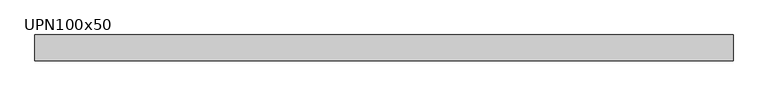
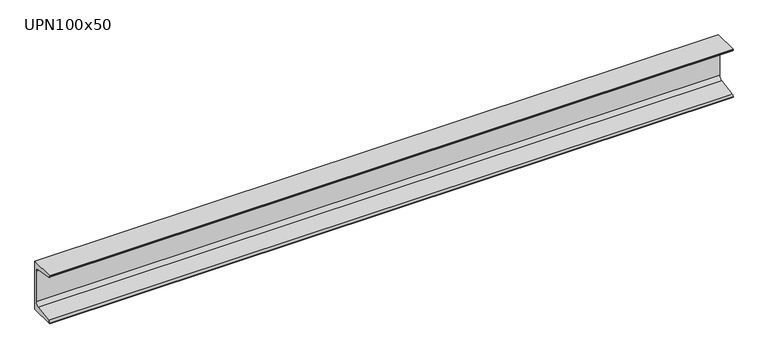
"""IFC4 building model written with IfcOpenShell, lengths in millimetres: beam geometry, M_MC Shapes : UPN100x50."""

from ifc_helpers import new_model, si_unit, point, frame, frame_2d, origin, place, context, project, spatial, polyline, circle_curve, trimmed, segment, composite_curve, outline, extrude, source, transform, mapped, element, save


def upn100x50_5b4b934f(model_context):
    return source(origin(), model_context, "Body", "SweptSolid", [
        extrude(outline(composite_curve([segment(polyline([(10.9, 50.0), (10.9, -50.0), (-39.1, -50.0), (-39.1, -49.0253247)]), True, "CONTINUOUS"), segment(trimmed(circle_curve(frame_2d((-35.15, -49.0253247)), 3.95), [point((-39.1, -49.0253247))], [point((-35.7993773, -45.1290689))], False, "CARTESIAN"), True, "CONTINUOUS"), segment(polyline([(-35.7993773, -45.1290689), (-0.2512455, -39.2043685)]), True, "CONTINUOUS"), segment(trimmed(circle_curve(frame_2d((-1.55, -31.4118569)), 7.9), [point((-0.2512455, -39.2043685))], [point((6.35, -31.4118569))], True, "CARTESIAN"), True, "CONTINUOUS"), segment(polyline([(6.35, -31.4118569), (6.35, 31.4118569)]), True, "CONTINUOUS"), segment(trimmed(circle_curve(frame_2d((-1.55, 31.4118569)), 7.9), [point((6.35, 31.4118569))], [point((-0.2512455, 39.2043685))], True, "CARTESIAN"), True, "CONTINUOUS"), segment(polyline([(-0.2512455, 39.2043685), (-35.7993773, 45.1290689)]), True, "CONTINUOUS"), segment(trimmed(circle_curve(frame_2d((-35.15, 49.0253247)), 3.95), [point((-35.7993773, 45.1290689))], [point((-39.1, 49.0253247))], False, "CARTESIAN"), True, "CONTINUOUS"), segment(polyline([(-39.1, 49.0253247), (-39.1, 50.0), (10.9, 50.0)]), True, "CONTINUOUS")], self_intersect=False)), frame((-790.0, 0.0, 0.0), z_axis=(1.0, 0.0, 0.0), x_axis=(0.0, 1.0, 0.0)), (0.0, 0.0, 1.0), 1350.6),
    ])


if __name__ == "__main__":
    model = new_model("IFC4")
    model_context = context("Model", 3, world=origin())
    ifc_project = project(units=[si_unit("LENGTHUNIT", "METRE", prefix="MILLI")], contexts=[model_context])
    site = spatial("IfcSite", under=ifc_project)
    building = spatial("IfcBuilding", under=site)
    placement = place(None, origin())
    upn100x50_shape = upn100x50_5b4b934f(model_context)
    element("IfcBeam", 1, ObjectType="M_MC Shapes : UPN100x50", at=placement, inside=building, context=model_context, shape_type="MappedRepresentation", body=[
        mapped(upn100x50_shape, transform((0.0, 0.0, 0.0), x_axis=(1.0, 0.0, 0.0), y_axis=(0.0, 1.0, 0.0), z_axis=(0.0, 0.0, 1.0))),
    ])
    save(model, "model.ifc")
